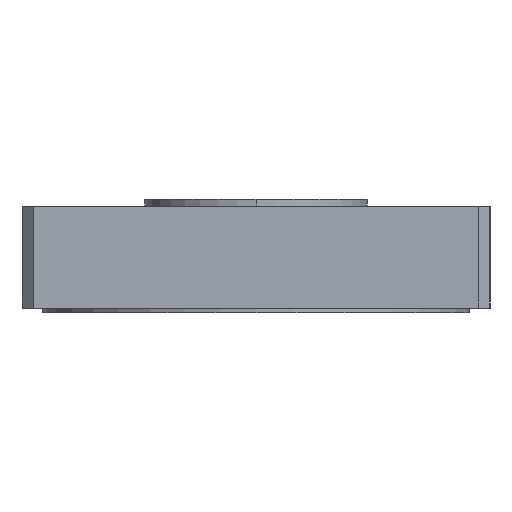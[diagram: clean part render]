
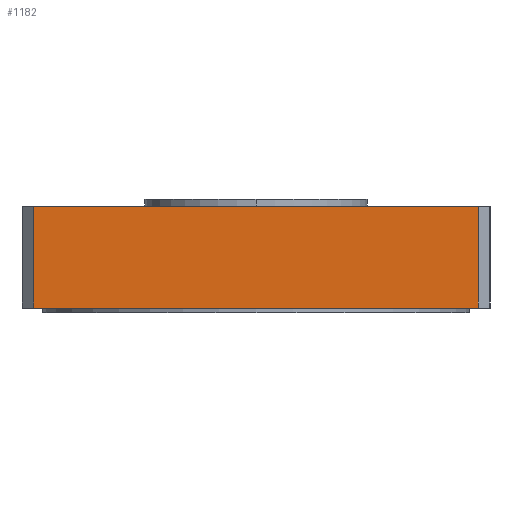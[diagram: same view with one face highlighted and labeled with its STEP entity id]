
A CAD part, left-side view. The second image highlights one B-rep face of the part: STEP entity #1182.
In plain terms, the highlighted planar face has unit normal (-1, 0, 0).
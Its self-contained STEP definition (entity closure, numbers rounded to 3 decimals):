
#82 = ORIENTED_EDGE ( 'NONE', *, *, #1129, .T. ) ;
#107 = PLANE ( 'NONE',  #342 ) ;
#116 = DIRECTION ( 'NONE',  ( 1., 0., 0. ) ) ;
#202 = VECTOR ( 'NONE', #1331, 1000. ) ;
#218 = LINE ( 'NONE', #1507, #1161 ) ;
#295 = LINE ( 'NONE', #805, #202 ) ;
#342 = AXIS2_PLACEMENT_3D ( 'NONE', #637, #116, #626 ) ;
#425 = VECTOR ( 'NONE', #1645, 1000. ) ;
#498 = FACE_OUTER_BOUND ( 'NONE', #1549, .T. ) ;
#530 = VERTEX_POINT ( 'NONE', #698 ) ;
#558 = VERTEX_POINT ( 'NONE', #1324 ) ;
#562 = CARTESIAN_POINT ( 'NONE',  ( -50.8, -48.26, 0. ) ) ;
#578 = DIRECTION ( 'NONE',  ( 0., -1., 0. ) ) ;
#626 = DIRECTION ( 'NONE',  ( 0., 0., -1. ) ) ;
#637 = CARTESIAN_POINT ( 'NONE',  ( -50.8, -50.8, 22.098 ) ) ;
#698 = CARTESIAN_POINT ( 'NONE',  ( -50.8, 48.26, 22.098 ) ) ;
#734 = CARTESIAN_POINT ( 'NONE',  ( -50.8, 48.26, 22.098 ) ) ;
#784 = ORIENTED_EDGE ( 'NONE', *, *, #797, .T. ) ;
#797 = EDGE_CURVE ( 'NONE', #1005, #982, #1253, .T. ) ;
#805 = CARTESIAN_POINT ( 'NONE',  ( -50.8, -50.8, 22.098 ) ) ;
#982 = VERTEX_POINT ( 'NONE', #1585 ) ;
#1005 = VERTEX_POINT ( 'NONE', #562 ) ;
#1026 = EDGE_CURVE ( 'NONE', #530, #982, #295, .T. ) ;
#1049 = ORIENTED_EDGE ( 'NONE', *, *, #1026, .F. ) ;
#1117 = CARTESIAN_POINT ( 'NONE',  ( -50.8, -48.26, 22.098 ) ) ;
#1129 = EDGE_CURVE ( 'NONE', #558, #1005, #218, .T. ) ;
#1142 = EDGE_CURVE ( 'NONE', #530, #558, #1365, .T. ) ;
#1161 = VECTOR ( 'NONE', #578, 1000. ) ;
#1182 = ADVANCED_FACE ( 'NONE', ( #498 ), #107, .F. ) ;
#1229 = ORIENTED_EDGE ( 'NONE', *, *, #1142, .T. ) ;
#1253 = LINE ( 'NONE', #1117, #1400 ) ;
#1324 = CARTESIAN_POINT ( 'NONE',  ( -50.8, 48.26, 0. ) ) ;
#1331 = DIRECTION ( 'NONE',  ( 0., -1., 0. ) ) ;
#1365 = LINE ( 'NONE', #734, #425 ) ;
#1400 = VECTOR ( 'NONE', #1510, 1000. ) ;
#1507 = CARTESIAN_POINT ( 'NONE',  ( -50.8, -50.8, 0. ) ) ;
#1510 = DIRECTION ( 'NONE',  ( 0., 0., 1. ) ) ;
#1549 = EDGE_LOOP ( 'NONE', ( #1049, #1229, #82, #784 ) ) ;
#1585 = CARTESIAN_POINT ( 'NONE',  ( -50.8, -48.26, 22.098 ) ) ;
#1645 = DIRECTION ( 'NONE',  ( 0., 0., -1. ) ) ;
